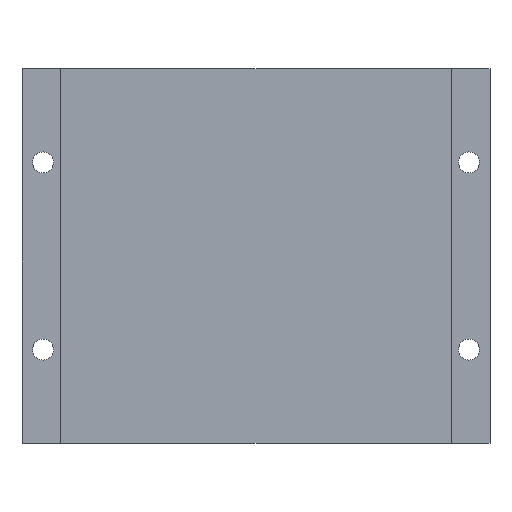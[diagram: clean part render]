
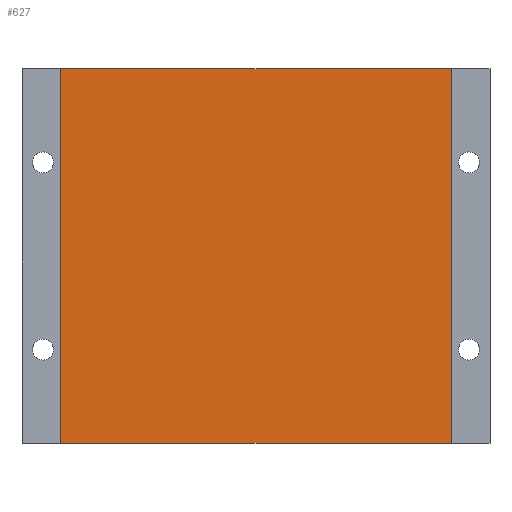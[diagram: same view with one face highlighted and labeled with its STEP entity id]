
A CAD part, top view. The second image highlights one B-rep face of the part: STEP entity #627.
In plain terms, the highlighted planar face has unit normal (0, 0, 1).
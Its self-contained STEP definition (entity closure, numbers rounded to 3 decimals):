
#16 = DIRECTION ( 'NONE',  ( 0., -1., 0. ) ) ;
#26 = CARTESIAN_POINT ( 'NONE',  ( 66.727, 400., 5.35 ) ) ;
#62 = FACE_OUTER_BOUND ( 'NONE', #146, .T. ) ;
#64 = CARTESIAN_POINT ( 'NONE',  ( -16.673, 320., 5.35 ) ) ;
#77 = ORIENTED_EDGE ( 'NONE', *, *, #335, .T. ) ;
#81 = DIRECTION ( 'NONE',  ( 0., 0., 1. ) ) ;
#84 = VECTOR ( 'NONE', #247, 1000. ) ;
#110 = CARTESIAN_POINT ( 'NONE',  ( -16.673, 320., 5.35 ) ) ;
#123 = VERTEX_POINT ( 'NONE', #187 ) ;
#127 = DIRECTION ( 'NONE',  ( 1., 0., 0. ) ) ;
#146 = EDGE_LOOP ( 'NONE', ( #557, #598, #175, #77 ) ) ;
#175 = ORIENTED_EDGE ( 'NONE', *, *, #442, .T. ) ;
#187 = CARTESIAN_POINT ( 'NONE',  ( 66.727, 320., 5.35 ) ) ;
#209 = CARTESIAN_POINT ( 'NONE',  ( -16.673, 400., 5.35 ) ) ;
#210 = CARTESIAN_POINT ( 'NONE',  ( 66.727, 400., 5.35 ) ) ;
#219 = VECTOR ( 'NONE', #16, 1000. ) ;
#223 = AXIS2_PLACEMENT_3D ( 'NONE', #511, #81, #127 ) ;
#227 = LINE ( 'NONE', #110, #84 ) ;
#247 = DIRECTION ( 'NONE',  ( 1., 0., 0. ) ) ;
#288 = LINE ( 'NONE', #399, #219 ) ;
#335 = EDGE_CURVE ( 'NONE', #601, #467, #584, .T. ) ;
#347 = CARTESIAN_POINT ( 'NONE',  ( -16.673, 400., 5.35 ) ) ;
#393 = DIRECTION ( 'NONE',  ( 0., 1., 0. ) ) ;
#399 = CARTESIAN_POINT ( 'NONE',  ( -16.673, 400., 5.35 ) ) ;
#419 = VECTOR ( 'NONE', #530, 1000. ) ;
#421 = EDGE_CURVE ( 'NONE', #525, #123, #227, .T. ) ;
#442 = EDGE_CURVE ( 'NONE', #123, #601, #449, .T. ) ;
#449 = LINE ( 'NONE', #210, #582 ) ;
#467 = VERTEX_POINT ( 'NONE', #209 ) ;
#507 = PLANE ( 'NONE',  #223 ) ;
#511 = CARTESIAN_POINT ( 'NONE',  ( 0., 0., 5.35 ) ) ;
#512 = EDGE_CURVE ( 'NONE', #467, #525, #288, .T. ) ;
#525 = VERTEX_POINT ( 'NONE', #64 ) ;
#530 = DIRECTION ( 'NONE',  ( -1., 0., 0. ) ) ;
#557 = ORIENTED_EDGE ( 'NONE', *, *, #512, .T. ) ;
#582 = VECTOR ( 'NONE', #393, 1000. ) ;
#584 = LINE ( 'NONE', #347, #419 ) ;
#598 = ORIENTED_EDGE ( 'NONE', *, *, #421, .T. ) ;
#601 = VERTEX_POINT ( 'NONE', #26 ) ;
#627 = ADVANCED_FACE ( 'NONE', ( #62 ), #507, .T. ) ;
